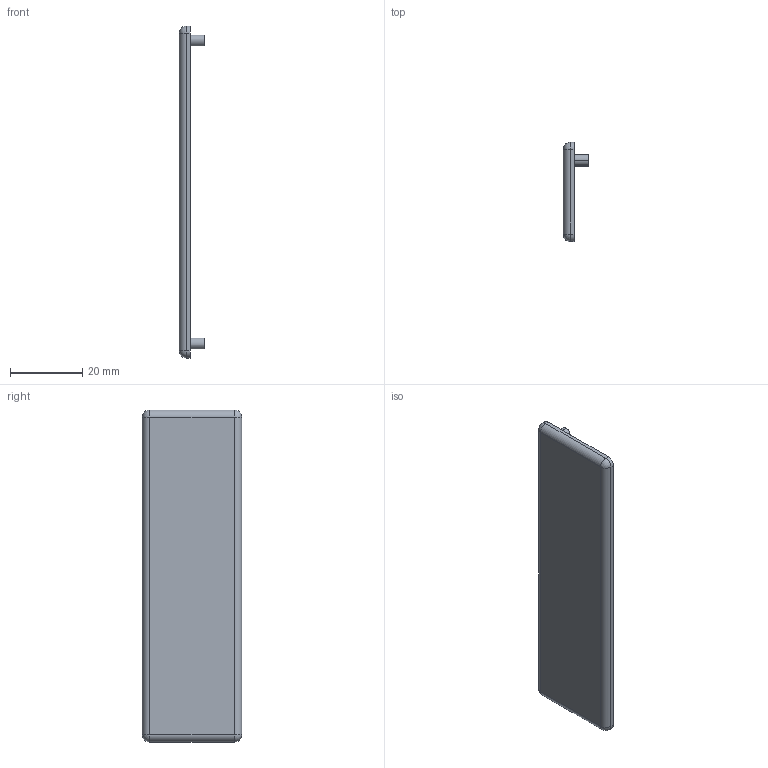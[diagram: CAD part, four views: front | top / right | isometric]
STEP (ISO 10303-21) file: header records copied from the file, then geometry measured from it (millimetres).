
FILE_DESCRIPTION( (''), '2;1');
FILE_NAME ('CVICAD02.6264.F10_EndCover_21504.stp','2021-07-12T19:12:50',(''),(''),'spGate 12.6.6','','');
FILE_SCHEMA (('AUTOMOTIVE_DESIGN'));
Length unit declared in the file: millimetre
Bounding box: 7 x 27.5 x 92 mm (x, y, z)
Volume: 7436.4 mm3; surface area: 5631.2 mm2
Topology: 1 solids, 1 shells, 24 faces, 52 edges, 28 vertices
Faces by surface type: cylinder 12, plane 8, sphere 4
Entity records: 1061 total; most frequent: DIRECTION 116, CARTESIAN_POINT 104, ORIENTED_EDGE 96, COLOUR_RGB 73, PRESENTATION_STYLE_ASSIGNMENT 73, STYLED_ITEM 73, AXIS2_PLACEMENT_3D 48, EDGE_CURVE 48
